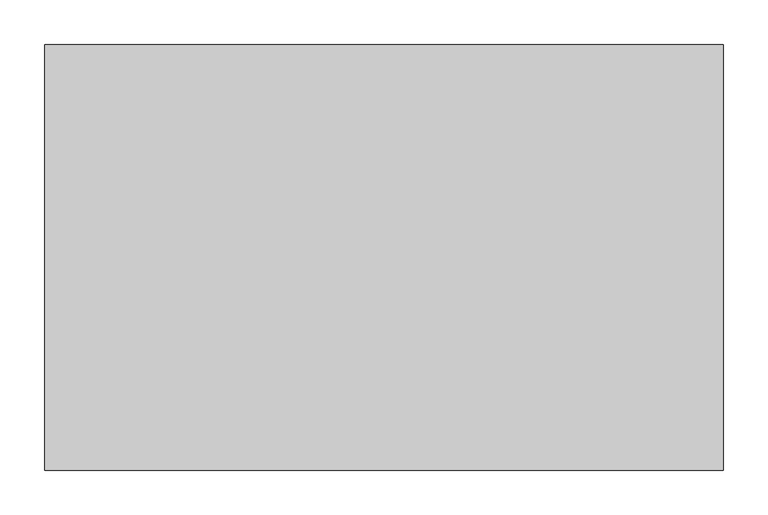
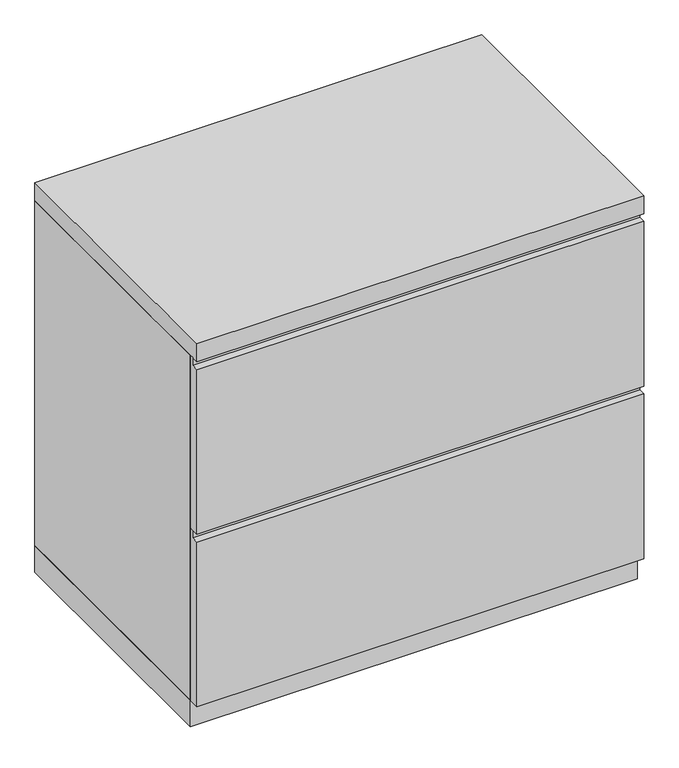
"""IFC4 building model written with IfcOpenShell, lengths in millimetres: furniture geometry, Haworth_XSeries_LateralFile : 18d 30w 27h - Proud Style."""

from ifc_helpers import new_model, si_unit, frame, origin, origin_with_axes, place, context, project, spatial, polyline, outline, extrude, source, transform, mapped, element, save


def furniture_90913c63(model_context):
    return source(origin(), model_context, "Body", "SweptSolid", [
        extrude(outline(polyline([(-457.2, 357.1875), (-476.25, 357.1875), (-476.25, 652.4625), (-463.55, 652.4625), (-463.55, 666.75), (-457.2, 666.75), (-457.2, 357.1875)])), frame((-379.4125, 0.0, 0.0), z_axis=(1.0, 0.0, 0.0), x_axis=(0.0, 1.0, 0.0)), (0.0, 0.0, 1.0), 758.825),
        extrude(outline(polyline([(-457.2, 357.1875), (-476.25, 357.1875), (-476.25, 652.4625), (-463.55, 652.4625), (-463.55, 666.75), (-457.2, 666.75), (-457.2, 357.1875)])), frame((-379.4125, 0.0, 0.0), z_axis=(1.0, 0.0, 0.0), x_axis=(0.0, 1.0, 0.0)), (0.0, 0.0, 1.0), 758.825),
        extrude(outline(polyline([(-457.2, 47.625), (-476.25, 47.625), (-476.25, 342.9), (-463.55, 342.9), (-463.55, 357.1875), (-457.2, 357.1875), (-457.2, 47.625)])), frame((-379.4125, 0.0, 0.0), z_axis=(1.0, 0.0, 0.0), x_axis=(0.0, 1.0, 0.0)), (0.0, 0.0, 1.0), 758.825),
        extrude(outline(polyline([(379.4125, 0.0), (379.4125, -457.2), (-379.4125, -457.2), (-379.4125, 0.0), (379.4125, 0.0)])), origin_with_axes(), (0.0, 0.0, 1.0), 47.625),
        extrude(outline(polyline([(379.4125, 0.0), (379.4125, -476.25), (-379.4125, -476.25), (-379.4125, 0.0), (379.4125, 0.0)])), frame((0.0, 0.0, 666.75), z_axis=(0.0, 0.0, 1.0), x_axis=(1.0, 0.0, 0.0)), (0.0, 0.0, 1.0), 31.75),
        extrude(outline(polyline([(379.4125, 0.0), (379.4125, -457.2), (360.3625, -457.2), (360.3625, -19.05), (-360.3625, -19.05), (-360.3625, -457.2), (-379.4125, -457.2), (-379.4125, 0.0), (379.4125, 0.0)])), frame((0.0, 0.0, 47.625), z_axis=(0.0, 0.0, 1.0), x_axis=(1.0, 0.0, 0.0)), (0.0, 0.0, 1.0), 619.125),
    ])


if __name__ == "__main__":
    model = new_model("IFC4")
    model_context = context("Model", 3, world=origin())
    ifc_project = project(units=[si_unit("LENGTHUNIT", "METRE", prefix="MILLI")], contexts=[model_context])
    site = spatial("IfcSite", under=ifc_project)
    building = spatial("IfcBuilding", under=site)
    placement = place(None, origin())
    furniture_shape = furniture_90913c63(model_context)
    element("IfcFurniture", 1, ObjectType="Haworth_XSeries_LateralFile : 18d 30w 27h - Proud Style", at=placement, inside=building, context=model_context, shape_type="MappedRepresentation", body=[
        mapped(furniture_shape, transform((0.0, 0.0, 0.0), x_axis=(1.0, 0.0, 0.0), y_axis=(0.0, 1.0, 0.0), z_axis=(0.0, 0.0, 1.0))),
    ])
    save(model, "model.ifc")
